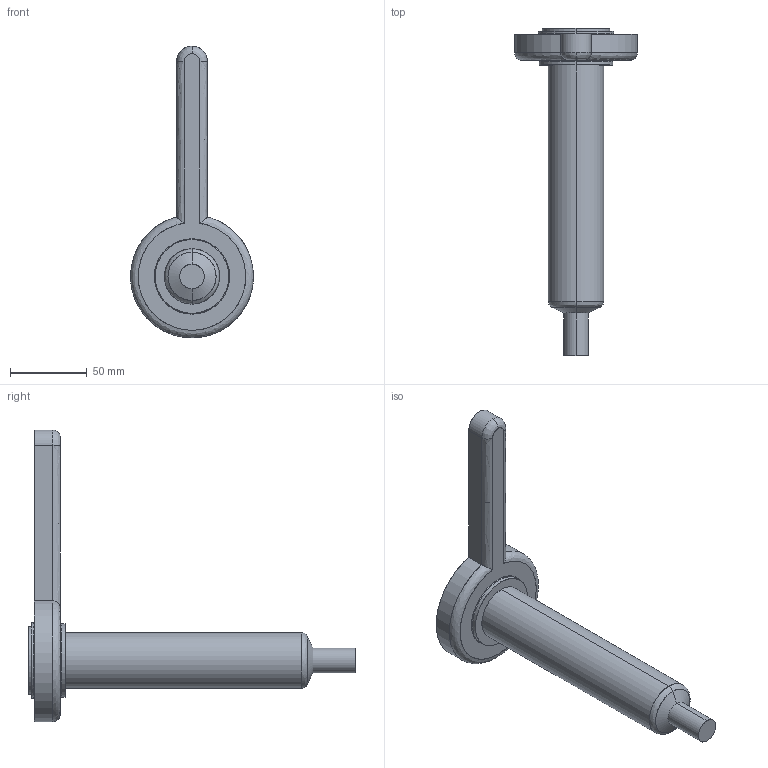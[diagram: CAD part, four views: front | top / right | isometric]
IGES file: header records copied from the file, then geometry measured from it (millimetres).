
Start section: SolidWorks IGES file using analytic representation for surfaces
Global section: file name: C:\Documents and Settings\ws-20\Desktop\TEMPORANEA\Sede UGBE5004-S-A C-164 L-186 P-25.IGS; native system: SolidWorks 2012; preprocessor: SolidWorks 2012; author: ws-20; date: 120307.090801; units: millimetre
Bounding box: 80 x 213.42 x 190 mm (x, y, z)
Surface area: 41386.4 mm2 (no closed solid volume)
Topology: 0 solids, 0 shells, 34 faces, 788 edges, 788 vertices
Faces by surface type: revolution 21, bspline 13
